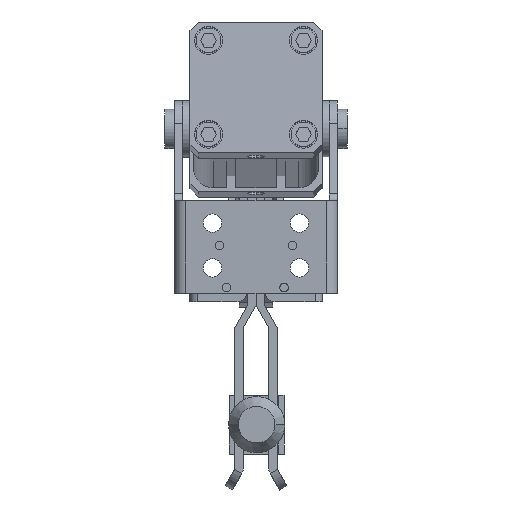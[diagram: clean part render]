
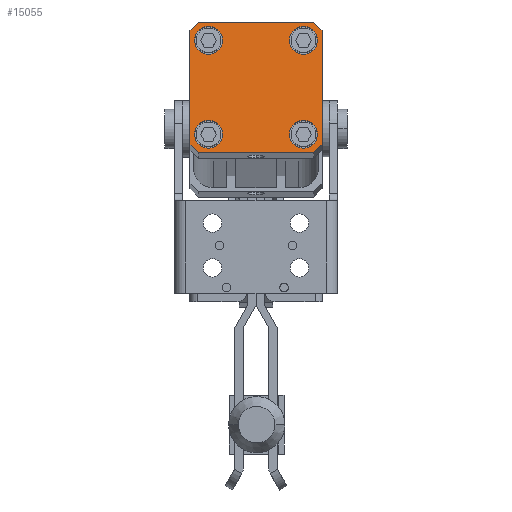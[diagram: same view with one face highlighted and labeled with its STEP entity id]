
A CAD part, front view. The second image highlights one B-rep face of the part: STEP entity #15055.
In plain terms, the highlighted planar face has unit normal (0, -0.99, 0.143) as drawn and (0, 0, -1) by its records, which use the part's own axes.
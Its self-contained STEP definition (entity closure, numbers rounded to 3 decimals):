
#752 = LINE ( 'NONE', #6633, #1373 ) ;
#813 = EDGE_LOOP ( 'NONE', ( #8831, #12061 ) ) ;
#1027 = CIRCLE ( 'NONE', #22571, 5. ) ;
#1036 = CARTESIAN_POINT ( 'NONE',  ( 45.4, 40.4, -96.5 ) ) ;
#1264 = EDGE_CURVE ( 'NONE', #5560, #1279, #22269, .T. ) ;
#1279 = VERTEX_POINT ( 'NONE', #8399 ) ;
#1298 = FACE_BOUND ( 'NONE', #22451, .T. ) ;
#1373 = VECTOR ( 'NONE', #20679, 1000. ) ;
#1486 = EDGE_CURVE ( 'NONE', #3138, #3152, #5916, .T. ) ;
#2215 = DIRECTION ( 'NONE',  ( 0., 0., 1. ) ) ;
#2526 = CARTESIAN_POINT ( 'NONE',  ( 0., 47., -96.5 ) ) ;
#2776 = CARTESIAN_POINT ( 'NONE',  ( 6.6, 6.6, -96.5 ) ) ;
#3119 = EDGE_CURVE ( 'NONE', #7789, #9144, #10928, .T. ) ;
#3138 = VERTEX_POINT ( 'NONE', #6983 ) ;
#3152 = VERTEX_POINT ( 'NONE', #1036 ) ;
#3282 = VERTEX_POINT ( 'NONE', #18390 ) ;
#3480 = CARTESIAN_POINT ( 'NONE',  ( 40.4, 6.6, -96.5 ) ) ;
#3867 = CARTESIAN_POINT ( 'NONE',  ( 0., 3., -96.5 ) ) ;
#3929 = DIRECTION ( 'NONE',  ( 0., 0., 1. ) ) ;
#3985 = CIRCLE ( 'NONE', #18969, 5. ) ;
#4013 = ORIENTED_EDGE ( 'NONE', *, *, #1264, .F. ) ;
#4040 = CARTESIAN_POINT ( 'NONE',  ( 1.6, 40.4, -96.5 ) ) ;
#4707 = ORIENTED_EDGE ( 'NONE', *, *, #19210, .T. ) ;
#4815 = DIRECTION ( 'NONE',  ( 1., 0., 0. ) ) ;
#4831 = DIRECTION ( 'NONE',  ( -0.707, -0.707, 0. ) ) ;
#5143 = ORIENTED_EDGE ( 'NONE', *, *, #5773, .T. ) ;
#5229 = CIRCLE ( 'NONE', #6643, 5. ) ;
#5352 = FACE_OUTER_BOUND ( 'NONE', #15553, .T. ) ;
#5432 = DIRECTION ( 'NONE',  ( 0., 0., 1. ) ) ;
#5446 = DIRECTION ( 'NONE',  ( 1., 0., 0. ) ) ;
#5506 = DIRECTION ( 'NONE',  ( 1., 0., 0. ) ) ;
#5560 = VERTEX_POINT ( 'NONE', #19075 ) ;
#5773 = EDGE_CURVE ( 'NONE', #20464, #9144, #16069, .T. ) ;
#5784 = CIRCLE ( 'NONE', #10101, 5. ) ;
#5916 = CIRCLE ( 'NONE', #14757, 5. ) ;
#6239 = VECTOR ( 'NONE', #20517, 1000. ) ;
#6499 = CARTESIAN_POINT ( 'NONE',  ( 11.6, 6.6, -96.5 ) ) ;
#6622 = EDGE_CURVE ( 'NONE', #10530, #24834, #10126, .T. ) ;
#6633 = CARTESIAN_POINT ( 'NONE',  ( 0., 0., -96.5 ) ) ;
#6643 = AXIS2_PLACEMENT_3D ( 'NONE', #20206, #8183, #22244 ) ;
#6983 = CARTESIAN_POINT ( 'NONE',  ( 35.4, 40.4, -96.5 ) ) ;
#7364 = CARTESIAN_POINT ( 'NONE',  ( 0., 0., -96.5 ) ) ;
#7518 = DIRECTION ( 'NONE',  ( 0.707, -0.707, 0. ) ) ;
#7789 = VERTEX_POINT ( 'NONE', #8373 ) ;
#8055 = AXIS2_PLACEMENT_3D ( 'NONE', #7364, #21404, #9398 ) ;
#8183 = DIRECTION ( 'NONE',  ( 0., 0., 1. ) ) ;
#8254 = AXIS2_PLACEMENT_3D ( 'NONE', #3480, #17480, #5506 ) ;
#8373 = CARTESIAN_POINT ( 'NONE',  ( 0., 44., -96.5 ) ) ;
#8399 = CARTESIAN_POINT ( 'NONE',  ( 3., 47., -96.5 ) ) ;
#8516 = AXIS2_PLACEMENT_3D ( 'NONE', #17412, #5432, #19462 ) ;
#8601 = LINE ( 'NONE', #23168, #18637 ) ;
#8831 = ORIENTED_EDGE ( 'NONE', *, *, #1486, .T. ) ;
#9007 = EDGE_CURVE ( 'NONE', #24834, #10530, #17515, .T. ) ;
#9144 = VERTEX_POINT ( 'NONE', #9997 ) ;
#9152 = ORIENTED_EDGE ( 'NONE', *, *, #18245, .F. ) ;
#9192 = VECTOR ( 'NONE', #11206, 1000. ) ;
#9198 = ORIENTED_EDGE ( 'NONE', *, *, #19901, .T. ) ;
#9398 = DIRECTION ( 'NONE',  ( -1., 0., 0. ) ) ;
#9997 = CARTESIAN_POINT ( 'NONE',  ( 0., 3., -96.5 ) ) ;
#10101 = AXIS2_PLACEMENT_3D ( 'NONE', #2776, #16803, #4815 ) ;
#10126 = CIRCLE ( 'NONE', #20845, 5. ) ;
#10235 = LINE ( 'NONE', #14398, #25608 ) ;
#10530 = VERTEX_POINT ( 'NONE', #12044 ) ;
#10543 = VERTEX_POINT ( 'NONE', #20089 ) ;
#10716 = FACE_BOUND ( 'NONE', #19841, .T. ) ;
#10781 = CARTESIAN_POINT ( 'NONE',  ( 44., 0., -96.5 ) ) ;
#10847 = DIRECTION ( 'NONE',  ( 0., 0., 1. ) ) ;
#10928 = LINE ( 'NONE', #14941, #20316 ) ;
#11038 = DIRECTION ( 'NONE',  ( 0., -1., 0. ) ) ;
#11206 = DIRECTION ( 'NONE',  ( 0.707, 0.707, 0. ) ) ;
#11335 = FACE_BOUND ( 'NONE', #813, .T. ) ;
#11876 = ORIENTED_EDGE ( 'NONE', *, *, #9007, .T. ) ;
#12044 = CARTESIAN_POINT ( 'NONE',  ( 35.4, 6.6, -96.5 ) ) ;
#12061 = ORIENTED_EDGE ( 'NONE', *, *, #17734, .T. ) ;
#12423 = DIRECTION ( 'NONE',  ( 0., 1., 0. ) ) ;
#12829 = EDGE_CURVE ( 'NONE', #24575, #13587, #23036, .T. ) ;
#13299 = VERTEX_POINT ( 'NONE', #10781 ) ;
#13587 = VERTEX_POINT ( 'NONE', #15725 ) ;
#13725 = ORIENTED_EDGE ( 'NONE', *, *, #19496, .F. ) ;
#14223 = CARTESIAN_POINT ( 'NONE',  ( 40.4, 6.6, -96.5 ) ) ;
#14226 = LINE ( 'NONE', #15569, #24293 ) ;
#14398 = CARTESIAN_POINT ( 'NONE',  ( 47., 0., -96.5 ) ) ;
#14757 = AXIS2_PLACEMENT_3D ( 'NONE', #16920, #23856, #5446 ) ;
#14868 = CARTESIAN_POINT ( 'NONE',  ( 47., 44., -96.5 ) ) ;
#14941 = CARTESIAN_POINT ( 'NONE',  ( 0., 0., -96.5 ) ) ;
#15055 = ADVANCED_FACE ( 'NONE', ( #1298, #16005, #11335, #10716, #5352 ), #23339, .F. ) ;
#15471 = ORIENTED_EDGE ( 'NONE', *, *, #19025, .T. ) ;
#15481 = VERTEX_POINT ( 'NONE', #14868 ) ;
#15553 = EDGE_LOOP ( 'NONE', ( #9152, #15471, #13725, #5143, #22860, #9198, #4013, #4707 ) ) ;
#15569 = CARTESIAN_POINT ( 'NONE',  ( 47., 44., -96.5 ) ) ;
#15725 = CARTESIAN_POINT ( 'NONE',  ( 11.6, 40.4, -96.5 ) ) ;
#15929 = CARTESIAN_POINT ( 'NONE',  ( 40.4, 40.4, -96.5 ) ) ;
#16005 = FACE_BOUND ( 'NONE', #18307, .T. ) ;
#16069 = LINE ( 'NONE', #3867, #20805 ) ;
#16237 = DIRECTION ( 'NONE',  ( 1., 0., 0. ) ) ;
#16803 = DIRECTION ( 'NONE',  ( 0., 0., 1. ) ) ;
#16920 = CARTESIAN_POINT ( 'NONE',  ( 40.4, 40.4, -96.5 ) ) ;
#17412 = CARTESIAN_POINT ( 'NONE',  ( 6.6, 40.4, -96.5 ) ) ;
#17480 = DIRECTION ( 'NONE',  ( 0., 0., 1. ) ) ;
#17515 = CIRCLE ( 'NONE', #8254, 5. ) ;
#17630 = ORIENTED_EDGE ( 'NONE', *, *, #25625, .T. ) ;
#17734 = EDGE_CURVE ( 'NONE', #3152, #3138, #3985, .T. ) ;
#17856 = ORIENTED_EDGE ( 'NONE', *, *, #6622, .T. ) ;
#17859 = DIRECTION ( 'NONE',  ( -0.707, 0.707, 0. ) ) ;
#17925 = DIRECTION ( 'NONE',  ( 1., 0., 0. ) ) ;
#18245 = EDGE_CURVE ( 'NONE', #3282, #15481, #10235, .T. ) ;
#18307 = EDGE_LOOP ( 'NONE', ( #17856, #11876 ) ) ;
#18390 = CARTESIAN_POINT ( 'NONE',  ( 47., 3., -96.5 ) ) ;
#18637 = VECTOR ( 'NONE', #4831, 1000. ) ;
#18969 = AXIS2_PLACEMENT_3D ( 'NONE', #15929, #3929, #17925 ) ;
#19025 = EDGE_CURVE ( 'NONE', #3282, #13299, #8601, .T. ) ;
#19075 = CARTESIAN_POINT ( 'NONE',  ( 44., 47., -96.5 ) ) ;
#19180 = ORIENTED_EDGE ( 'NONE', *, *, #12829, .T. ) ;
#19210 = EDGE_CURVE ( 'NONE', #5560, #15481, #14226, .T. ) ;
#19213 = LINE ( 'NONE', #21205, #9192 ) ;
#19462 = DIRECTION ( 'NONE',  ( 1., 0., 0. ) ) ;
#19496 = EDGE_CURVE ( 'NONE', #20464, #13299, #752, .T. ) ;
#19841 = EDGE_LOOP ( 'NONE', ( #19180, #20575 ) ) ;
#19901 = EDGE_CURVE ( 'NONE', #7789, #1279, #19213, .T. ) ;
#20089 = CARTESIAN_POINT ( 'NONE',  ( 1.6, 6.6, -96.5 ) ) ;
#20206 = CARTESIAN_POINT ( 'NONE',  ( 6.6, 6.6, -96.5 ) ) ;
#20227 = EDGE_CURVE ( 'NONE', #13587, #24575, #1027, .T. ) ;
#20316 = VECTOR ( 'NONE', #11038, 1000. ) ;
#20464 = VERTEX_POINT ( 'NONE', #21604 ) ;
#20517 = DIRECTION ( 'NONE',  ( -1., 0., 0. ) ) ;
#20575 = ORIENTED_EDGE ( 'NONE', *, *, #20227, .T. ) ;
#20679 = DIRECTION ( 'NONE',  ( 1., 0., 0. ) ) ;
#20805 = VECTOR ( 'NONE', #17859, 1000. ) ;
#20845 = AXIS2_PLACEMENT_3D ( 'NONE', #14223, #2215, #16237 ) ;
#21205 = CARTESIAN_POINT ( 'NONE',  ( 3., 47., -96.5 ) ) ;
#21404 = DIRECTION ( 'NONE',  ( 0., 0., 1. ) ) ;
#21604 = CARTESIAN_POINT ( 'NONE',  ( 3., 0., -96.5 ) ) ;
#22244 = DIRECTION ( 'NONE',  ( 1., 0., 0. ) ) ;
#22269 = LINE ( 'NONE', #2526, #6239 ) ;
#22451 = EDGE_LOOP ( 'NONE', ( #17630, #23179 ) ) ;
#22571 = AXIS2_PLACEMENT_3D ( 'NONE', #22858, #10847, #24863 ) ;
#22858 = CARTESIAN_POINT ( 'NONE',  ( 6.6, 40.4, -96.5 ) ) ;
#22860 = ORIENTED_EDGE ( 'NONE', *, *, #3119, .F. ) ;
#23036 = CIRCLE ( 'NONE', #8516, 5. ) ;
#23168 = CARTESIAN_POINT ( 'NONE',  ( 44., 0., -96.5 ) ) ;
#23179 = ORIENTED_EDGE ( 'NONE', *, *, #23607, .T. ) ;
#23339 = PLANE ( 'NONE',  #8055 ) ;
#23607 = EDGE_CURVE ( 'NONE', #24176, #10543, #5229, .T. ) ;
#23856 = DIRECTION ( 'NONE',  ( 0., 0., 1. ) ) ;
#23882 = CARTESIAN_POINT ( 'NONE',  ( 45.4, 6.6, -96.5 ) ) ;
#24176 = VERTEX_POINT ( 'NONE', #6499 ) ;
#24293 = VECTOR ( 'NONE', #7518, 1000. ) ;
#24575 = VERTEX_POINT ( 'NONE', #4040 ) ;
#24834 = VERTEX_POINT ( 'NONE', #23882 ) ;
#24863 = DIRECTION ( 'NONE',  ( 1., 0., 0. ) ) ;
#25608 = VECTOR ( 'NONE', #12423, 1000. ) ;
#25625 = EDGE_CURVE ( 'NONE', #10543, #24176, #5784, .T. ) ;
